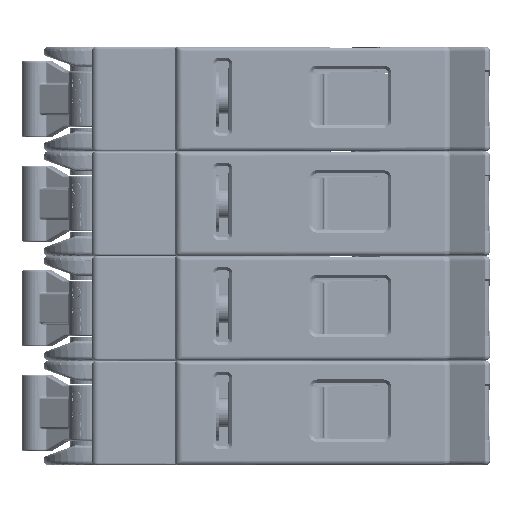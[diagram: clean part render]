
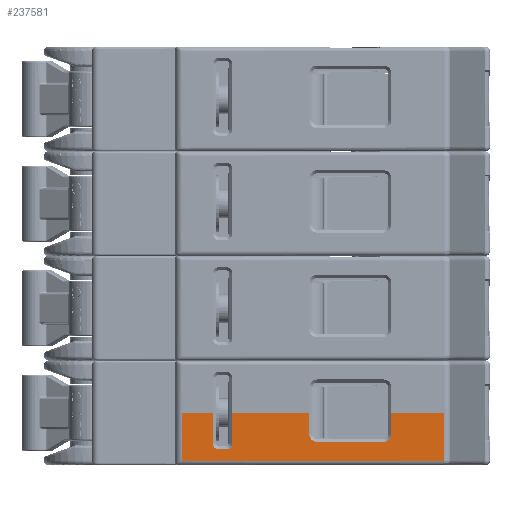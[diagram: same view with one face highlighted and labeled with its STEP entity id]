
A CAD part, left-side view. The second image highlights one B-rep face of the part: STEP entity #237581.
In plain terms, the highlighted planar face has unit normal (-1, 0, 0).
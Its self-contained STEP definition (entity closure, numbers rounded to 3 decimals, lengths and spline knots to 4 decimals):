
#215172=DIRECTION('',(0.,1.,0.));
#215173=VECTOR('',#215172,0.199);
#215174=CARTESIAN_POINT('',(-1.73,-0.056,-2.064));
#215175=LINE('',#215174,#215173);
#215420=DIRECTION('',(0.,1.,0.));
#215421=VECTOR('',#215420,0.505);
#215422=CARTESIAN_POINT('',(-1.73,-0.691,-2.064));
#215423=LINE('',#215422,#215421);
#215574=DIRECTION('',(0.,1.,0.));
#215575=VECTOR('',#215574,0.3436);
#215576=CARTESIAN_POINT('',(-1.73,-1.5746,-2.064));
#215577=LINE('',#215576,#215575);
#215950=DIRECTION('',(0.,0.,1.));
#215951=VECTOR('',#215950,0.139);
#215952=CARTESIAN_POINT('',(-1.73,-0.691,
-2.203));
#215953=LINE('',#215952,#215951);
#215954=CARTESIAN_POINT('',(-1.73,-0.742,-2.203));
#215955=DIRECTION('',(1.,0.,0.));
#215956=DIRECTION('',(0.,0.,-1.));
#215957=AXIS2_PLACEMENT_3D('',#215954,#215955,#215956);
#215959=DIRECTION('',(0.,1.,0.));
#215960=VECTOR('',#215959,0.438);
#215961=CARTESIAN_POINT('',(-1.73,-1.18,
-2.254));
#215962=LINE('',#215961,#215960);
#215963=CARTESIAN_POINT('',(-1.73,-1.18,-2.203));
#215964=DIRECTION('',(1.,0.,0.));
#215965=DIRECTION('',(0.,-1.,0.));
#215966=AXIS2_PLACEMENT_3D('',#215963,#215964,#215965);
#215968=DIRECTION('',(0.,0.,-1.));
#215969=VECTOR('',#215968,0.139);
#215970=CARTESIAN_POINT('',(-1.73,-1.231,-2.064));
#215971=LINE('',#215970,#215969);
#215972=DIRECTION('',(0.,0.,1.));
#215973=VECTOR('',#215972,0.313);
#215974=CARTESIAN_POINT('',(-1.73,-1.5746,-2.377));
#215975=LINE('',#215974,#215973);
#215976=DIRECTION('',(0.,1.,0.));
#215977=VECTOR('',#215976,1.7176);
#215978=CARTESIAN_POINT('',(-1.73,-1.5746,-2.377));
#215979=LINE('',#215978,#215977);
#215980=DIRECTION('',(0.,0.,-1.));
#215981=VECTOR('',#215980,0.313);
#215982=CARTESIAN_POINT('',(-1.73,0.143,-2.064));
#215983=LINE('',#215982,#215981);
#215984=DIRECTION('',(0.,0.,1.));
#215985=VECTOR('',#215984,0.2);
#215986=CARTESIAN_POINT('',(-1.73,-0.056,
-2.264));
#215987=LINE('',#215986,#215985);
#215988=CARTESIAN_POINT('',(-1.73,-0.096,-2.264));
#215989=DIRECTION('',(1.,0.,0.));
#215990=DIRECTION('',(0.,0.,-1.));
#215991=AXIS2_PLACEMENT_3D('',#215988,#215989,#215990);
#215993=DIRECTION('',(0.,1.,0.));
#215994=VECTOR('',#215993,0.05);
#215995=CARTESIAN_POINT('',(-1.73,-0.146,
-2.304));
#215996=LINE('',#215995,#215994);
#215997=CARTESIAN_POINT('',(-1.73,-0.146,-2.264));
#215998=DIRECTION('',(1.,0.,0.));
#215999=DIRECTION('',(0.,-1.,0.));
#216000=AXIS2_PLACEMENT_3D('',#215997,#215998,#215999);
#216002=DIRECTION('',(0.,0.,-1.));
#216003=VECTOR('',#216002,0.2);
#216004=CARTESIAN_POINT('',(-1.73,-0.186,-2.064));
#216005=LINE('',#216004,#216003);
#232117=CARTESIAN_POINT('',(-1.73,0.143,-2.064));
#232119=VERTEX_POINT('',#232117);
#232120=CARTESIAN_POINT('',(-1.73,0.143,-2.377));
#232121=VERTEX_POINT('',#232120);
#232126=CARTESIAN_POINT('',(-1.73,-1.5746,-2.377));
#232127=VERTEX_POINT('',#232126);
#232188=CARTESIAN_POINT('',(-1.73,-1.5746,-2.064));
#232190=VERTEX_POINT('',#232188);
#232268=CARTESIAN_POINT('',(-1.73,-0.056,-2.064));
#232270=VERTEX_POINT('',#232268);
#232274=CARTESIAN_POINT('',(-1.73,-0.056,
-2.264));
#232275=VERTEX_POINT('',#232274);
#232276=CARTESIAN_POINT('',(-1.73,-0.096,-2.304));
#232277=VERTEX_POINT('',#232276);
#232280=CARTESIAN_POINT('',(-1.73,-0.146,
-2.304));
#232281=VERTEX_POINT('',#232280);
#232284=CARTESIAN_POINT('',(-1.73,-0.186,-2.264));
#232285=VERTEX_POINT('',#232284);
#232289=CARTESIAN_POINT('',(-1.73,-0.186,-2.064));
#232291=VERTEX_POINT('',#232289);
#236933=CARTESIAN_POINT('',(-1.73,-0.691,-2.064));
#236935=VERTEX_POINT('',#236933);
#236939=CARTESIAN_POINT('',(-1.73,-0.691,
-2.203));
#236940=VERTEX_POINT('',#236939);
#236941=CARTESIAN_POINT('',(-1.73,-0.742,-2.254));
#236942=VERTEX_POINT('',#236941);
#236945=CARTESIAN_POINT('',(-1.73,-1.18,
-2.254));
#236946=VERTEX_POINT('',#236945);
#236949=CARTESIAN_POINT('',(-1.73,-1.231,-2.203));
#236950=VERTEX_POINT('',#236949);
#236954=CARTESIAN_POINT('',(-1.73,-1.231,-2.064));
#236956=VERTEX_POINT('',#236954);
#237545=CARTESIAN_POINT('',(-1.73,0.19,-2.064));
#237546=DIRECTION('',(-1.,0.,0.));
#237547=DIRECTION('',(0.,-1.,0.));
#237548=AXIS2_PLACEMENT_3D('',#237545,#237546,#237547);
#237549=PLANE('',#237548);
#237551=ORIENTED_EDGE('',*,*,#237550,.F.);
#237553=ORIENTED_EDGE('',*,*,#237552,.F.);
#237555=ORIENTED_EDGE('',*,*,#237554,.F.);
#237557=ORIENTED_EDGE('',*,*,#237556,.F.);
#237559=ORIENTED_EDGE('',*,*,#237558,.F.);
#237560=ORIENTED_EDGE('',*,*,#237232,.F.);
#237562=ORIENTED_EDGE('',*,*,#237561,.F.);
#237564=ORIENTED_EDGE('',*,*,#237563,.T.);
#237566=ORIENTED_EDGE('',*,*,#237565,.F.);
#237567=ORIENTED_EDGE('',*,*,#237004,.F.);
#237569=ORIENTED_EDGE('',*,*,#237568,.F.);
#237571=ORIENTED_EDGE('',*,*,#237570,.F.);
#237573=ORIENTED_EDGE('',*,*,#237572,.F.);
#237575=ORIENTED_EDGE('',*,*,#237574,.F.);
#237577=ORIENTED_EDGE('',*,*,#237576,.F.);
#237578=ORIENTED_EDGE('',*,*,#237142,.F.);
#237579=EDGE_LOOP('',(#237551,#237553,#237555,#237557,#237559,#237560,#237562,
#237564,#237566,#237567,#237569,#237571,#237573,#237575,#237577,#237578));
#237580=FACE_OUTER_BOUND('',#237579,.F.);
#237581=ADVANCED_FACE('',(#237580),#237549,.T.);
#215958=CIRCLE('',#215957,0.051);
#215967=CIRCLE('',#215966,0.051);
#215992=CIRCLE('',#215991,0.04);
#216001=CIRCLE('',#216000,0.04);
#237004=EDGE_CURVE('',#232270,#232119,#215175,.T.);
#237142=EDGE_CURVE('',#236935,#232291,#215423,.T.);
#237232=EDGE_CURVE('',#232190,#236956,#215577,.T.);
#237550=EDGE_CURVE('',#236940,#236935,#215953,.T.);
#237552=EDGE_CURVE('',#236942,#236940,#215958,.T.);
#237554=EDGE_CURVE('',#236946,#236942,#215962,.T.);
#237556=EDGE_CURVE('',#236950,#236946,#215967,.T.);
#237558=EDGE_CURVE('',#236956,#236950,#215971,.T.);
#237561=EDGE_CURVE('',#232127,#232190,#215975,.T.);
#237563=EDGE_CURVE('',#232127,#232121,#215979,.T.);
#237565=EDGE_CURVE('',#232119,#232121,#215983,.T.);
#237568=EDGE_CURVE('',#232275,#232270,#215987,.T.);
#237570=EDGE_CURVE('',#232277,#232275,#215992,.T.);
#237572=EDGE_CURVE('',#232281,#232277,#215996,.T.);
#237574=EDGE_CURVE('',#232285,#232281,#216001,.T.);
#237576=EDGE_CURVE('',#232291,#232285,#216005,.T.);
